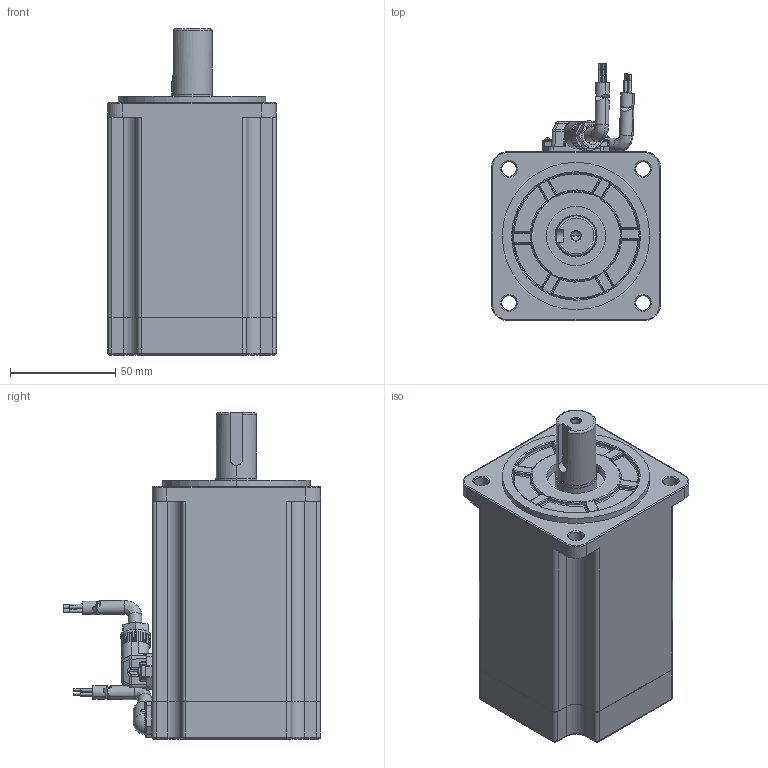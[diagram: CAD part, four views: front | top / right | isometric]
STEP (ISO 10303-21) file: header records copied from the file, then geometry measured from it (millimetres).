
FILE_DESCRIPTION (( 'STEP AP214' ), '1' );
FILE_NAME ('高压220V 1000W L=120mm.STEP', '2021-10-20T09:00:06', ( '微软用户' ), ( '微软中国' ), 'SwSTEP 2.0', 'SolidWorks 2014', '' );
FILE_SCHEMA (( 'AUTOMOTIVE_DESIGN' ));
Length unit declared in the file: millimetre
Products named in the file (9): 萇埭盄; 萇埭盄郪璃; 晤鎢ん揤盄裔; HN5J-106C; GB／T818-2000十字槽盘头螺钉M2．5×5; 詢揤220V 1000W L=120mm; 晤鎢ん郪璃B; HN5J-106D; 1000W儂旯L=120mm
Assembly tree (12 placements, depth 3):
  詢揤220V 1000W L=120mm
    1000W儂旯L=120mm
    晤鎢ん郪璃B
      萇埭盄
      GB／T818-2000十字槽盘头螺钉M2．5×5  x2
      晤鎢ん揤盄裔
    萇埭盄郪璃
      HN5J-106C
      HN5J-106D
      萇埭盄
      GB／T818-2000十字槽盘头螺钉M2．5×5  x2
Bounding box: 80 x 122.09 x 155 mm (x, y, z)
Volume: 699780.3 mm3; surface area: 61394.7 mm2
Topology: 10 solids, 16 shells, 1330 faces, 3311 edges, 2018 vertices
Faces by surface type: plane 504, cylinder 351, bspline 308, torus 80, sphere 47, cone 40
Entity records: 54318 total; most frequent: CARTESIAN_POINT 27160, ORIENTED_EDGE 5977, DIRECTION 4914, EDGE_CURVE 3007, VERTEX_POINT 1863, AXIS2_PLACEMENT_3D 1734, LINE 1446, VECTOR 1446
